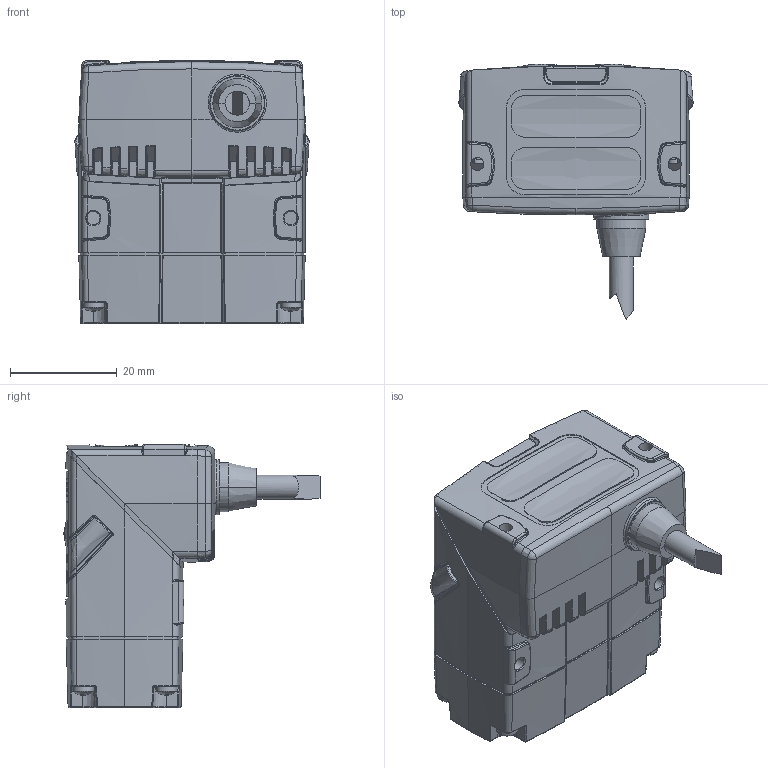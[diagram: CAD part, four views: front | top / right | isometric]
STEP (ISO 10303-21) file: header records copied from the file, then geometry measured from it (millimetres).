
FILE_DESCRIPTION (( 'STEP AP214' ), '1' );
FILE_NAME ('DM150a.STEP', '2015-04-21T13:50:02', ( 'anessel' ), ( 'Microsoft' ), 'SwSTEP 2.0', 'SolidWorks 2014', '' );
FILE_SCHEMA (( 'AUTOMOTIVE_DESIGN' ));
Length unit declared in the file: millimetre
Products named in the file (1): DM150a
Bounding box: 43.87 x 47.96 x 49.29 mm (x, y, z)
Surface area: 10970.7 mm2 (no closed solid volume)
Topology: 0 solids, 35 shells, 961 faces, 3375 edges, 2361 vertices
Faces by surface type: bspline 399, plane 219, cylinder 202, cone 74, torus 51, sphere 16
Full cylindrical faces by diameter (mm): 2.5 x4, 4 x6, 4.5 x1, 10.3 x1
Entity records: 60392 total; most frequent: CARTESIAN_POINT 26106, ORIENTED_EDGE 5304, DIRECTION 3563, EDGE_CURVE 3343, VERTEX_POINT 2353, B_SPLINE_CURVE_WITH_KNOTS 1483, AXIS2_PLACEMENT_3D 1348, EDGE_LOOP 1047
